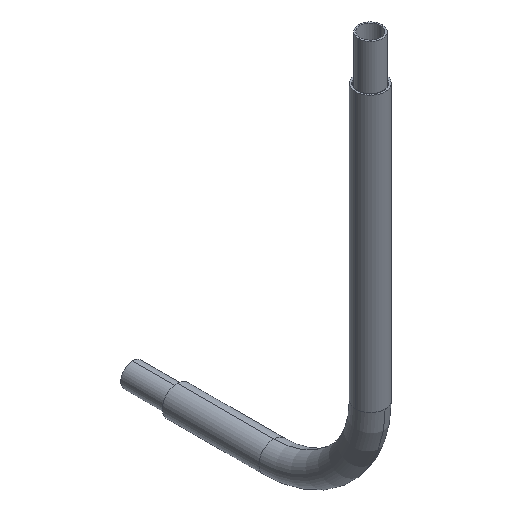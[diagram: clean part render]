
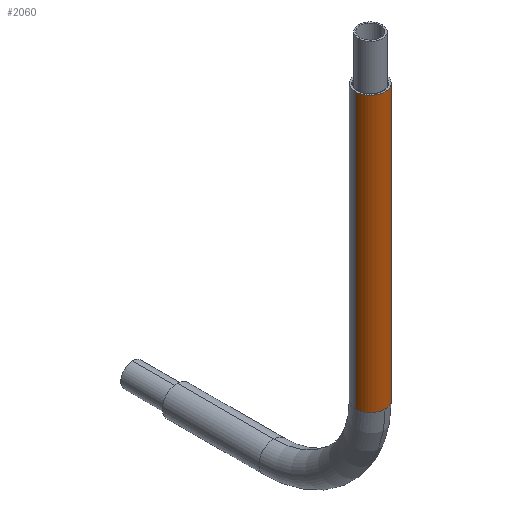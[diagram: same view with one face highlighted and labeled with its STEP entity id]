
A CAD part, isometric view. The second image highlights one B-rep face of the part: STEP entity #2060.
In plain terms, the highlighted cylindrical face has radius 20 mm (diameter 40 mm), a partial arc.
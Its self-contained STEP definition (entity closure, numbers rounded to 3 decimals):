
#5 = AXIS2_PLACEMENT_3D ( 'NONE', #439, #440, #441 ) ;
#56 = AXIS2_PLACEMENT_3D ( 'NONE', #1235, #1231, #1238 ) ;
#97 = CIRCLE ( 'NONE', #5, 20. ) ;
#439 = CARTESIAN_POINT ( 'NONE',  ( -179.009, -106.497, -3.187 ) ) ;
#440 = DIRECTION ( 'NONE',  ( 0., 0., 1. ) ) ;
#441 = DIRECTION ( 'NONE',  ( 1., 0., 0. ) ) ;
#516 = CARTESIAN_POINT ( 'NONE',  ( -159.009, -106.497, 366.813 ) ) ;
#518 = LINE ( 'NONE', #519, #2300 ) ;
#519 = CARTESIAN_POINT ( 'NONE',  ( -199.009, -106.497, 366.813 ) ) ;
#520 = LINE ( 'NONE', #516, #2296 ) ;
#524 = DIRECTION ( 'NONE',  ( 0., 0., -1. ) ) ;
#529 = DIRECTION ( 'NONE',  ( 0., 0., -1. ) ) ;
#562 = CARTESIAN_POINT ( 'NONE',  ( -179.009, -106.497, 366.813 ) ) ;
#563 = DIRECTION ( 'NONE',  ( 0., 0., 1. ) ) ;
#564 = DIRECTION ( 'NONE',  ( 1., 0., 0. ) ) ;
#673 = CARTESIAN_POINT ( 'NONE',  ( -179.009, -106.497, -3.187 ) ) ;
#674 = DIRECTION ( 'NONE',  ( 0., 0., 1. ) ) ;
#675 = DIRECTION ( 'NONE',  ( 1., 0., 0. ) ) ;
#919 = ORIENTED_EDGE ( 'NONE', *, *, #1830, .T. ) ;
#920 = ORIENTED_EDGE ( 'NONE', *, *, #1913, .T. ) ;
#921 = ORIENTED_EDGE ( 'NONE', *, *, #1859, .T. ) ;
#922 = ORIENTED_EDGE ( 'NONE', *, *, #1871, .F. ) ;
#923 = ORIENTED_EDGE ( 'NONE', *, *, #1857, .F. ) ;
#986 = CARTESIAN_POINT ( 'NONE',  ( -199.009, -106.497, -3.187 ) ) ;
#1007 = CARTESIAN_POINT ( 'NONE',  ( -199.009, -106.497, 366.813 ) ) ;
#1022 = CARTESIAN_POINT ( 'NONE',  ( -179.009, -126.497, -3.187 ) ) ;
#1036 = CARTESIAN_POINT ( 'NONE',  ( -159.009, -106.497, 366.813 ) ) ;
#1039 = CARTESIAN_POINT ( 'NONE',  ( -159.009, -106.497, -3.187 ) ) ;
#1231 = DIRECTION ( 'NONE',  ( 0., 0., -1. ) ) ;
#1234 = FACE_OUTER_BOUND ( 'NONE', #1664, .T. ) ;
#1235 = CARTESIAN_POINT ( 'NONE',  ( -179.009, -106.497, 366.813 ) ) ;
#1237 = CYLINDRICAL_SURFACE ( 'NONE', #56, 20. ) ;
#1238 = DIRECTION ( 'NONE',  ( -1., 0., 0. ) ) ;
#1539 = VERTEX_POINT ( 'NONE', #986 ) ;
#1560 = VERTEX_POINT ( 'NONE', #1007 ) ;
#1575 = VERTEX_POINT ( 'NONE', #1022 ) ;
#1589 = VERTEX_POINT ( 'NONE', #1036 ) ;
#1592 = VERTEX_POINT ( 'NONE', #1039 ) ;
#1664 = EDGE_LOOP ( 'NONE', ( #923, #922, #921, #920, #919 ) ) ;
#1830 = EDGE_CURVE ( 'NONE', #1575, #1592, #97, .T. ) ;
#1857 = EDGE_CURVE ( 'NONE', #1589, #1592, #520, .T. ) ;
#1859 = EDGE_CURVE ( 'NONE', #1560, #1539, #518, .T. ) ;
#1871 = EDGE_CURVE ( 'NONE', #1560, #1589, #2318, .T. ) ;
#1913 = EDGE_CURVE ( 'NONE', #1539, #1575, #2369, .T. ) ;
#2060 = ADVANCED_FACE ( 'NONE', ( #1234 ), #1237, .T. ) ;
#2296 = VECTOR ( 'NONE', #524, 1000. ) ;
#2300 = VECTOR ( 'NONE', #529, 1000. ) ;
#2318 = CIRCLE ( 'NONE', #2320, 20. ) ;
#2320 = AXIS2_PLACEMENT_3D ( 'NONE', #562, #563, #564 ) ;
#2369 = CIRCLE ( 'NONE', #2372, 20. ) ;
#2372 = AXIS2_PLACEMENT_3D ( 'NONE', #673, #674, #675 ) ;
